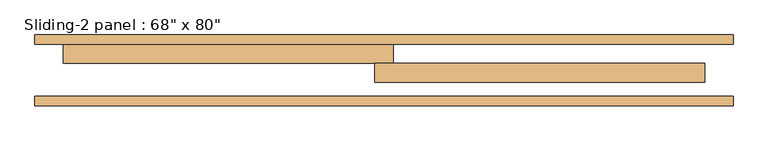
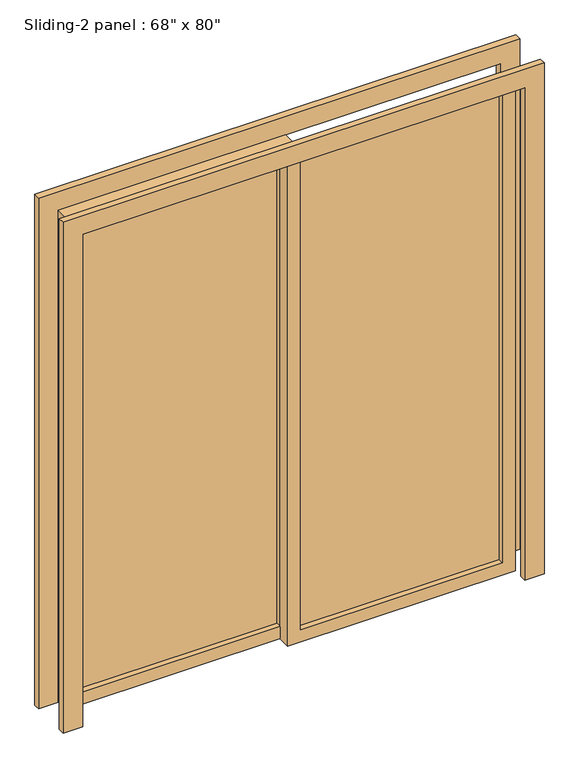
"""IFC4 building model written with IfcOpenShell, lengths in millimetres: door geometry."""

from ifc_helpers import new_model, si_unit, frame, origin, place, context, project, spatial, polyline, outline, extrude, source, transform, mapped, element, save


def door_e1f4216b(model_context):
    return source(origin(), model_context, "Body", "SweptSolid", [
        extrude(outline(polyline([(25.4, 123.825), (812.8, 123.825), (812.8, 117.475), (25.4, 117.475), (25.4, 123.825)])), frame((0.0, 0.0, 50.8), z_axis=(0.0, 0.0, 1.0), x_axis=(1.0, 0.0, 0.0)), (0.0, 0.0, 1.0), 1930.4),
        extrude(outline(polyline([(2032.0, -25.4), (0.0, -25.4), (0.0, 863.6), (2032.0, 863.6), (2032.0, -25.4)]), holes=[polyline([(1981.2, 25.4), (1981.2, 812.8), (50.8, 812.8), (50.8, 25.4), (1981.2, 25.4)])]), frame((0.0, 95.25, 0.0), z_axis=(0.0, 1.0, 0.0), x_axis=(0.0, 0.0, 1.0)), (0.0, 0.0, 1.0), 50.8),
        extrude(outline(polyline([(-812.8, 174.625), (-25.4, 174.625), (-25.4, 168.275), (-812.8, 168.275), (-812.8, 174.625)])), frame((0.0, 0.0, 50.8), z_axis=(0.0, 0.0, 1.0), x_axis=(1.0, 0.0, 0.0)), (0.0, 0.0, 1.0), 1930.4),
        extrude(outline(polyline([(2032.0, 25.4), (2032.0, -863.6), (0.0, -863.6), (0.0, 25.4), (2032.0, 25.4)]), holes=[polyline([(1981.2, -25.4), (50.8, -25.4), (50.8, -812.8), (1981.2, -812.8), (1981.2, -25.4)])]), frame((0.0, 146.05, 0.0), z_axis=(0.0, 1.0, 0.0), x_axis=(0.0, 0.0, 1.0)), (0.0, 0.0, 1.0), 50.8),
        extrude(outline(polyline([(0.0, -939.8), (0.0, -863.6), (2032.0, -863.6), (2032.0, 863.6), (0.0, 863.6), (0.0, 939.8), (2108.2, 939.8), (2108.2, -939.8), (0.0, -939.8)])), frame((0.0, 31.75, 0.0), z_axis=(0.0, 1.0, 0.0), x_axis=(0.0, 0.0, 1.0)), (0.0, 0.0, 1.0), 25.4),
        extrude(outline(polyline([(0.0, 939.8), (2108.2, 939.8), (2108.2, -939.8), (0.0, -939.8), (0.0, -863.6), (2032.0, -863.6), (2032.0, 863.6), (0.0, 863.6), (0.0, 939.8)])), frame((0.0, 196.85, 0.0), z_axis=(0.0, 1.0, 0.0), x_axis=(0.0, 0.0, 1.0)), (0.0, 0.0, 1.0), 25.4),
    ])


if __name__ == "__main__":
    model = new_model("IFC4")
    model_context = context("Model", 3, world=origin())
    ifc_project = project(units=[si_unit("LENGTHUNIT", "METRE", prefix="MILLI")], contexts=[model_context])
    site = spatial("IfcSite", under=ifc_project)
    building = spatial("IfcBuilding", under=site)
    placement = place(None, origin())
    door_shape = door_e1f4216b(model_context)
    element("IfcDoor", 1, ObjectType="Sliding-2 panel : 68\" x 80\"", at=placement, inside=building, context=model_context, shape_type="MappedRepresentation", body=[
        mapped(door_shape, transform((0.0, 0.0, 0.0), x_axis=(1.0, 0.0, 0.0), y_axis=(0.0, 1.0, 0.0), z_axis=(0.0, 0.0, 1.0))),
    ])
    save(model, "model.ifc")
